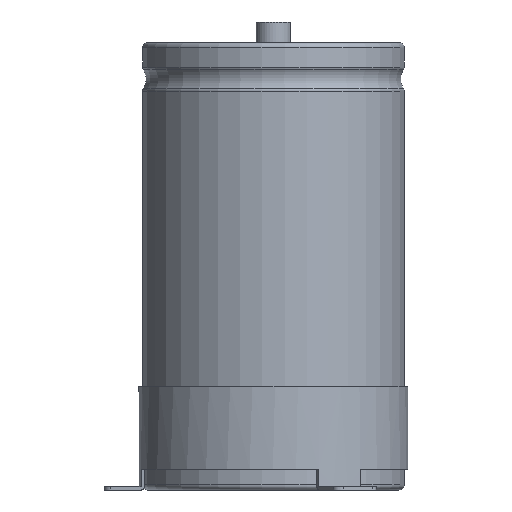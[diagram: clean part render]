
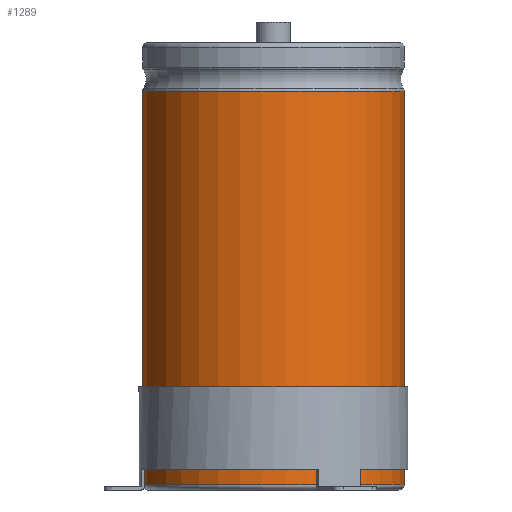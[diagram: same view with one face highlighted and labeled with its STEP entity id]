
A CAD part, front view. The second image highlights one B-rep face of the part: STEP entity #1289.
In plain terms, the highlighted cylindrical face has radius 38.1 mm (diameter 76.2 mm), a partial arc.
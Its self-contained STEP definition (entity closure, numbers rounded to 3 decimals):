
#233=LINE('',#6601,#447);
#234=LINE('',#6605,#448);
#447=VECTOR('',#5224,1.);
#448=VECTOR('',#5227,1.);
#695=FACE_OUTER_BOUND('',#1741,.T.);
#1289=ADVANCED_FACE('',(#695),#1519,.T.);
#1519=CYLINDRICAL_SURFACE('',#4585,38.1);
#1741=EDGE_LOOP('',(#2147,#2148,#2149,#2150));
#2147=ORIENTED_EDGE('',*,*,#3702,.T.);
#2148=ORIENTED_EDGE('',*,*,#3703,.T.);
#2149=ORIENTED_EDGE('',*,*,#3704,.F.);
#2150=ORIENTED_EDGE('',*,*,#3705,.F.);
#3274=VERTEX_POINT('',#6594);
#3276=VERTEX_POINT('',#6598);
#3277=VERTEX_POINT('',#6602);
#3278=VERTEX_POINT('',#6604);
#3702=EDGE_CURVE('',#3274,#3276,#4267,.T.);
#3703=EDGE_CURVE('',#3276,#3277,#233,.T.);
#3704=EDGE_CURVE('',#3278,#3277,#4268,.T.);
#3705=EDGE_CURVE('',#3274,#3278,#234,.T.);
#4267=CIRCLE('',#4582,38.1);
#4268=CIRCLE('',#4584,38.1);
#4582=AXIS2_PLACEMENT_3D('',#6599,#5220,#5221);
#4584=AXIS2_PLACEMENT_3D('',#6603,#5225,#5226);
#4585=AXIS2_PLACEMENT_3D('',#6606,#5228,#5229);
#5220=DIRECTION('',(0.,0.,-1.));
#5221=DIRECTION('',(0.,1.,0.));
#5224=DIRECTION('',(0.,0.,-1.));
#5225=DIRECTION('',(0.,0.,-1.));
#5226=DIRECTION('',(0.,1.,0.));
#5227=DIRECTION('',(0.,0.,-1.));
#5228=DIRECTION('',(0.,0.,-1.));
#5229=DIRECTION('',(0.,1.,0.));
#6594=CARTESIAN_POINT('',(3.983,37.891,115.9));
#6598=CARTESIAN_POINT('',(-3.983,37.891,115.9));
#6599=CARTESIAN_POINT('',(0.,0.,115.9));
#6601=CARTESIAN_POINT('',(-3.983,37.891,115.9));
#6602=CARTESIAN_POINT('',(-3.983,37.891,1.5));
#6603=CARTESIAN_POINT('',(0.,0.,1.5));
#6604=CARTESIAN_POINT('',(3.983,37.891,1.5));
#6605=CARTESIAN_POINT('',(3.983,37.891,115.9));
#6606=CARTESIAN_POINT('',(0.,0.,0.));
